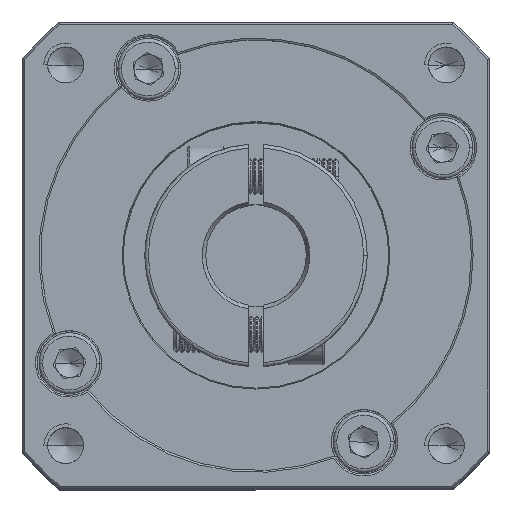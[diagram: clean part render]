
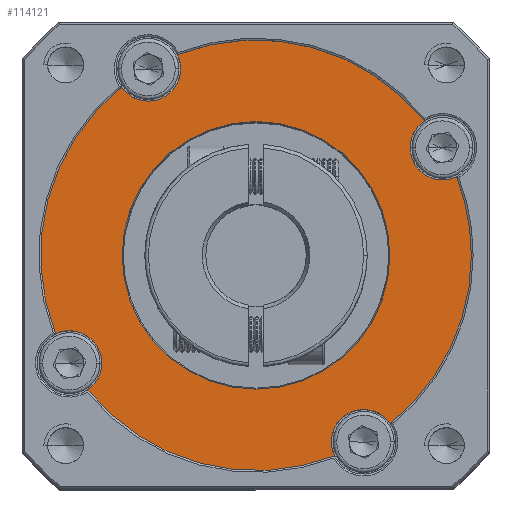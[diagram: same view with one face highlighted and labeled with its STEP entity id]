
A CAD part, top view. The second image highlights one B-rep face of the part: STEP entity #114121.
In plain terms, the highlighted planar face has unit normal (0, 0, 1).
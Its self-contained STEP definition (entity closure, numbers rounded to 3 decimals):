
#2603 = EDGE_CURVE ( 'NONE', #119225, #33139, #6795, .T. ) ;
#3007 = CARTESIAN_POINT ( 'NONE',  ( -15.767, 48.354, 1.199 ) ) ;
#3203 = VERTEX_POINT ( 'NONE', #94702 ) ;
#3485 = DIRECTION ( 'NONE',  ( 0., 0., 1. ) ) ;
#3659 = DIRECTION ( 'NONE',  ( 1., 0., 0. ) ) ;
#3841 = DIRECTION ( 'NONE',  ( 0., 0., 1. ) ) ;
#4822 = AXIS2_PLACEMENT_3D ( 'NONE', #17641, #95543, #57185 ) ;
#5046 = ORIENTED_EDGE ( 'NONE', *, *, #65314, .F. ) ;
#6795 = CIRCLE ( 'NONE', #67505, 4.5 ) ;
#7086 = EDGE_CURVE ( 'NONE', #45099, #26425, #95029, .T. ) ;
#7895 = ORIENTED_EDGE ( 'NONE', *, *, #26439, .T. ) ;
#9092 = FACE_OUTER_BOUND ( 'NONE', #74697, .T. ) ;
#9308 = ORIENTED_EDGE ( 'NONE', *, *, #61668, .F. ) ;
#9828 = EDGE_CURVE ( 'NONE', #3203, #27082, #54167, .T. ) ;
#11317 = AXIS2_PLACEMENT_3D ( 'NONE', #34383, #112316, #24118 ) ;
#14178 = AXIS2_PLACEMENT_3D ( 'NONE', #63787, #123821, #102478 ) ;
#14365 = ORIENTED_EDGE ( 'NONE', *, *, #9828, .T. ) ;
#15571 = DIRECTION ( 'NONE',  ( 1., 0., 0. ) ) ;
#16182 = CARTESIAN_POINT ( 'NONE',  ( -37.248, 33.354, 1.199 ) ) ;
#17059 = DIRECTION ( 'NONE',  ( 1., 0., 0. ) ) ;
#17641 = CARTESIAN_POINT ( 'NONE',  ( -37.248, 33.354, 1.199 ) ) ;
#20845 = ORIENTED_EDGE ( 'NONE', *, *, #2603, .F. ) ;
#21792 = ORIENTED_EDGE ( 'NONE', *, *, #83825, .F. ) ;
#22216 = CARTESIAN_POINT ( 'NONE',  ( -26.303, 5.422, 1.199 ) ) ;
#22949 = DIRECTION ( 'NONE',  ( 0., 0., 1. ) ) ;
#24114 = ORIENTED_EDGE ( 'NONE', *, *, #24184, .F. ) ;
#24118 = DIRECTION ( 'NONE',  ( 1., 0., 0. ) ) ;
#24184 = EDGE_CURVE ( 'NONE', #56046, #89961, #74199, .T. ) ;
#24690 = ORIENTED_EDGE ( 'NONE', *, *, #63979, .T. ) ;
#24951 = DIRECTION ( 'NONE',  ( 1., 0., 0. ) ) ;
#26425 = VERTEX_POINT ( 'NONE', #22216 ) ;
#26439 = EDGE_CURVE ( 'NONE', #75442, #89961, #52055, .T. ) ;
#27008 = DIRECTION ( 'NONE',  ( 0., 0., 1. ) ) ;
#27082 = VERTEX_POINT ( 'NONE', #97763 ) ;
#27307 = CARTESIAN_POINT ( 'NONE',  ( -48.193, 61.286, 1.199 ) ) ;
#27769 = DIRECTION ( 'NONE',  ( 1., 0., 0. ) ) ;
#27880 = AXIS2_PLACEMENT_3D ( 'NONE', #89049, #70710, #31130 ) ;
#29144 = DIRECTION ( 'NONE',  ( 1., 0., 0. ) ) ;
#30170 = DIRECTION ( 'NONE',  ( 1., 0., 0. ) ) ;
#31086 = AXIS2_PLACEMENT_3D ( 'NONE', #61844, #3485, #70396 ) ;
#31130 = DIRECTION ( 'NONE',  ( 1., 0., 0. ) ) ;
#32236 = CARTESIAN_POINT ( 'NONE',  ( -63.229, 18.354, 1.199 ) ) ;
#33139 = VERTEX_POINT ( 'NONE', #106264 ) ;
#33904 = CIRCLE ( 'NONE', #62776, 18.644 ) ;
#34383 = CARTESIAN_POINT ( 'NONE',  ( -52.248, 59.335, 1.199 ) ) ;
#38163 = CIRCLE ( 'NONE', #11317, 4.5 ) ;
#38387 = VERTEX_POINT ( 'NONE', #42998 ) ;
#38723 = EDGE_CURVE ( 'NONE', #110900, #93751, #116817, .T. ) ;
#39817 = EDGE_CURVE ( 'NONE', #38387, #43112, #58290, .T. ) ;
#40308 = AXIS2_PLACEMENT_3D ( 'NONE', #106922, #56704, #27769 ) ;
#42998 = CARTESIAN_POINT ( 'NONE',  ( -55.965, 56.799, 1.199 ) ) ;
#43112 = VERTEX_POINT ( 'NONE', #56057 ) ;
#44493 = DIRECTION ( 'NONE',  ( 0., 0., 1. ) ) ;
#45099 = VERTEX_POINT ( 'NONE', #99795 ) ;
#49283 = CARTESIAN_POINT ( 'NONE',  ( -37.248, 33.354, 1.199 ) ) ;
#49500 = AXIS2_PLACEMENT_3D ( 'NONE', #87482, #106222, #29144 ) ;
#51305 = DIRECTION ( 'NONE',  ( 0., 0., 1. ) ) ;
#52055 = CIRCLE ( 'NONE', #31086, 30. ) ;
#53671 = ORIENTED_EDGE ( 'NONE', *, *, #113064, .T. ) ;
#54167 = CIRCLE ( 'NONE', #40308, 18.644 ) ;
#54716 = ORIENTED_EDGE ( 'NONE', *, *, #74502, .F. ) ;
#55170 = CIRCLE ( 'NONE', #111382, 30. ) ;
#56046 = VERTEX_POINT ( 'NONE', #3007 ) ;
#56057 = CARTESIAN_POINT ( 'NONE',  ( -47.748, 59.335, 1.199 ) ) ;
#56704 = DIRECTION ( 'NONE',  ( 0., 0., -1. ) ) ;
#56895 = CARTESIAN_POINT ( 'NONE',  ( -58.729, 18.354, 1.199 ) ) ;
#57147 = PLANE ( 'NONE',  #27880 ) ;
#57185 = DIRECTION ( 'NONE',  ( 1., 0., 0. ) ) ;
#57418 = CARTESIAN_POINT ( 'NONE',  ( -37.248, 33.354, 1.199 ) ) ;
#58223 = ORIENTED_EDGE ( 'NONE', *, *, #125882, .T. ) ;
#58290 = CIRCLE ( 'NONE', #14178, 4.5 ) ;
#58647 = VERTEX_POINT ( 'NONE', #103360 ) ;
#59066 = DIRECTION ( 'NONE',  ( 0., 0., 1. ) ) ;
#61460 = CIRCLE ( 'NONE', #102992, 4.5 ) ;
#61668 = EDGE_CURVE ( 'NONE', #110127, #58647, #114389, .T. ) ;
#61844 = CARTESIAN_POINT ( 'NONE',  ( -37.248, 33.354, 1.199 ) ) ;
#62039 = AXIS2_PLACEMENT_3D ( 'NONE', #32236, #51305, #3659 ) ;
#62776 = AXIS2_PLACEMENT_3D ( 'NONE', #16182, #103875, #84316 ) ;
#63787 = CARTESIAN_POINT ( 'NONE',  ( -52.248, 59.335, 1.199 ) ) ;
#63979 = EDGE_CURVE ( 'NONE', #119225, #75442, #112568, .T. ) ;
#64189 = CARTESIAN_POINT ( 'NONE',  ( -22.248, 7.373, 1.199 ) ) ;
#65314 = EDGE_CURVE ( 'NONE', #45099, #110127, #73675, .T. ) ;
#67505 = AXIS2_PLACEMENT_3D ( 'NONE', #64189, #44493, #24951 ) ;
#67910 = AXIS2_PLACEMENT_3D ( 'NONE', #107612, #59066, #68898 ) ;
#68898 = DIRECTION ( 'NONE',  ( 1., 0., 0. ) ) ;
#70396 = DIRECTION ( 'NONE',  ( 1., 0., 0. ) ) ;
#70423 = AXIS2_PLACEMENT_3D ( 'NONE', #57418, #115045, #17059 ) ;
#70710 = DIRECTION ( 'NONE',  ( 0., 0., 1. ) ) ;
#70743 = DIRECTION ( 'NONE',  ( 1., 0., 0. ) ) ;
#71091 = CARTESIAN_POINT ( 'NONE',  ( -11.267, 48.354, 1.199 ) ) ;
#71518 = AXIS2_PLACEMENT_3D ( 'NONE', #72011, #3841, #70743 ) ;
#72011 = CARTESIAN_POINT ( 'NONE',  ( -63.229, 18.354, 1.199 ) ) ;
#72059 = CARTESIAN_POINT ( 'NONE',  ( -18.531, 9.909, 1.199 ) ) ;
#73675 = CIRCLE ( 'NONE', #71518, 4.5 ) ;
#74199 = CIRCLE ( 'NONE', #49500, 4.5 ) ;
#74502 = EDGE_CURVE ( 'NONE', #33139, #26425, #99757, .T. ) ;
#74697 = EDGE_LOOP ( 'NONE', ( #5046, #82523, #54716, #20845, #24690, #7895, #24114, #21792, #114243, #120786, #88785, #58223, #9308 ) ) ;
#75442 = VERTEX_POINT ( 'NONE', #94067 ) ;
#78615 = EDGE_CURVE ( 'NONE', #43112, #93751, #38163, .T. ) ;
#82523 = ORIENTED_EDGE ( 'NONE', *, *, #7086, .T. ) ;
#83825 = EDGE_CURVE ( 'NONE', #110900, #56046, #61460, .T. ) ;
#84316 = DIRECTION ( 'NONE',  ( 1., 0., 0. ) ) ;
#87482 = CARTESIAN_POINT ( 'NONE',  ( -11.267, 48.354, 1.199 ) ) ;
#88785 = ORIENTED_EDGE ( 'NONE', *, *, #39817, .F. ) ;
#89049 = CARTESIAN_POINT ( 'NONE',  ( -37.248, 33.354, 1.199 ) ) ;
#89961 = VERTEX_POINT ( 'NONE', #103685 ) ;
#93751 = VERTEX_POINT ( 'NONE', #27307 ) ;
#94067 = CARTESIAN_POINT ( 'NONE',  ( -7.248, 33.354, 1.199 ) ) ;
#94702 = CARTESIAN_POINT ( 'NONE',  ( -55.892, 33.354, 1.199 ) ) ;
#95029 = CIRCLE ( 'NONE', #4822, 30. ) ;
#95543 = DIRECTION ( 'NONE',  ( 0., 0., 1. ) ) ;
#97763 = CARTESIAN_POINT ( 'NONE',  ( -18.604, 33.354, 1.199 ) ) ;
#98587 = EDGE_LOOP ( 'NONE', ( #53671, #14365 ) ) ;
#99757 = CIRCLE ( 'NONE', #104567, 4.5 ) ;
#99795 = CARTESIAN_POINT ( 'NONE',  ( -60.693, 14.637, 1.199 ) ) ;
#102478 = DIRECTION ( 'NONE',  ( 1., 0., 0. ) ) ;
#102992 = AXIS2_PLACEMENT_3D ( 'NONE', #71091, #22949, #121413 ) ;
#103360 = CARTESIAN_POINT ( 'NONE',  ( -65.18, 22.409, 1.199 ) ) ;
#103685 = CARTESIAN_POINT ( 'NONE',  ( -9.316, 44.299, 1.199 ) ) ;
#103875 = DIRECTION ( 'NONE',  ( 0., 0., -1. ) ) ;
#104509 = CARTESIAN_POINT ( 'NONE',  ( -22.248, 7.373, 1.199 ) ) ;
#104567 = AXIS2_PLACEMENT_3D ( 'NONE', #104509, #27008, #15571 ) ;
#106222 = DIRECTION ( 'NONE',  ( 0., 0., 1. ) ) ;
#106264 = CARTESIAN_POINT ( 'NONE',  ( -26.748, 7.373, 1.199 ) ) ;
#106576 = FACE_BOUND ( 'NONE', #98587, .T. ) ;
#106922 = CARTESIAN_POINT ( 'NONE',  ( -37.248, 33.354, 1.199 ) ) ;
#107612 = CARTESIAN_POINT ( 'NONE',  ( -37.248, 33.354, 1.199 ) ) ;
#110127 = VERTEX_POINT ( 'NONE', #56895 ) ;
#110900 = VERTEX_POINT ( 'NONE', #119770 ) ;
#111382 = AXIS2_PLACEMENT_3D ( 'NONE', #49283, #126498, #30170 ) ;
#112316 = DIRECTION ( 'NONE',  ( 0., 0., 1. ) ) ;
#112568 = CIRCLE ( 'NONE', #70423, 30. ) ;
#113064 = EDGE_CURVE ( 'NONE', #27082, #3203, #33904, .T. ) ;
#114121 = ADVANCED_FACE ( 'NONE', ( #106576, #9092 ), #57147, .T. ) ;
#114243 = ORIENTED_EDGE ( 'NONE', *, *, #38723, .T. ) ;
#114389 = CIRCLE ( 'NONE', #62039, 4.5 ) ;
#115045 = DIRECTION ( 'NONE',  ( 0., 0., 1. ) ) ;
#116817 = CIRCLE ( 'NONE', #67910, 30. ) ;
#119225 = VERTEX_POINT ( 'NONE', #72059 ) ;
#119770 = CARTESIAN_POINT ( 'NONE',  ( -13.803, 52.071, 1.199 ) ) ;
#120786 = ORIENTED_EDGE ( 'NONE', *, *, #78615, .F. ) ;
#121413 = DIRECTION ( 'NONE',  ( 1., 0., 0. ) ) ;
#123821 = DIRECTION ( 'NONE',  ( 0., 0., 1. ) ) ;
#125882 = EDGE_CURVE ( 'NONE', #38387, #58647, #55170, .T. ) ;
#126498 = DIRECTION ( 'NONE',  ( 0., 0., 1. ) ) ;
